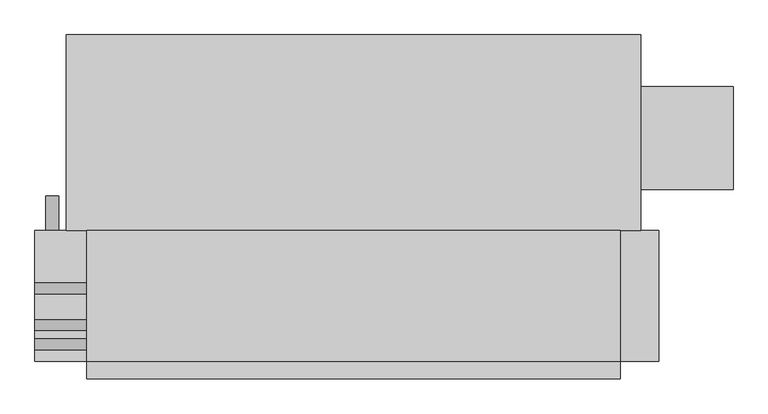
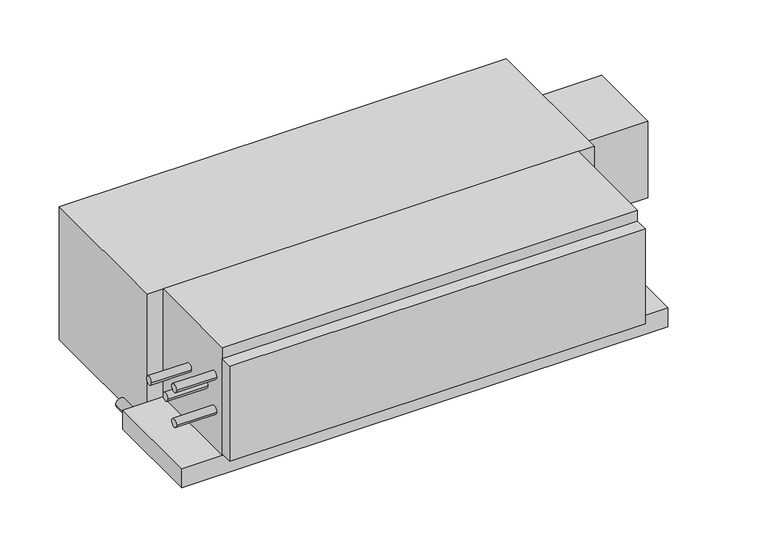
"""IFC4 building model written with IfcOpenShell, lengths in millimetres: proxy geometry, Concealed_Horizontal_Fan_Coil_Unit_With_Plenum_-_42CEA_-_CARRIER_-_4-Pipe_LH_2022 : Size 06 - 277v/60Hz/1Ph - 4/1 Coil."""

import ifcopenshell
import ifcopenshell.guid

model = None  # the IFC model being written
_history = None  # IfcOwnerHistory: only IFC2X3 demands one
_inside = {}  # id of a spatial element -> (the spatial element, [elements in it])
_under = {}  # id of a project, library or spatial element -> (it, [spatial elements below it])
_declared = {}  # id of a project -> (the project, [libraries it declares])
_typed = {}  # id of a type object -> (the type object, [elements of that type])
_made_of = {}  # id of a material, layer set ... -> (it, [elements and type objects made of it])


def new_model(schema):
    """Start an empty IFC model of exactly this schema.

    Asked for "IFC4X3", IfcOpenShell would pick the latest addendum, in which some entities
    have other attributes; the version numbers below select the first issue.
    IFC2X3 requires an IfcOwnerHistory on every rooted entity: one is made here for all.
    """
    global model, _history
    if schema == "IFC4X3":
        model = ifcopenshell.file(schema_version=(4, 3, 0, 0))
    else:
        model = ifcopenshell.file(schema=schema)
    _inside.clear()
    _under.clear()
    _declared.clear()
    _typed.clear()
    _made_of.clear()
    _history = None
    if model.schema == "IFC2X3":
        org = make("IfcOrganization", Name="unknown")
        user = make(
            "IfcPersonAndOrganization",
            ThePerson=make("IfcPerson", FamilyName="unknown"),
            TheOrganization=org,
        )
        app = make(
            "IfcApplication",
            ApplicationDeveloper=org,
            Version="unknown",
            ApplicationFullName="unknown",
            ApplicationIdentifier="unknown",
        )
        _history = make(
            "IfcOwnerHistory",
            OwningUser=user,
            OwningApplication=app,
            ChangeAction="ADDED",
            CreationDate=0,
        )
    return model


def make(cls, **values):
    """One entity of the class cls with the attributes given. An attribute that is None is left unset."""
    return model.create_entity(
        cls, **{name: value for name, value in values.items() if value is not None}
    )


def rooted(cls, **values):
    """An entity with a GlobalId (a new one), such as an element, a storey or a relation."""
    return make(cls, GlobalId=ifcopenshell.guid.new(), OwnerHistory=_history, **values)


def si_unit(unit_type, name, prefix=None):
    """IfcSIUnit, for example si_unit("LENGTHUNIT", "METRE", prefix="MILLI")."""
    return make("IfcSIUnit", UnitType=unit_type, Prefix=prefix, Name=name)


def assignment(units):
    """IfcUnitAssignment: the units of a project."""
    return None if units is None else make("IfcUnitAssignment", Units=units)


def point(xyz):
    """IfcCartesianPoint."""
    return None if xyz is None else make("IfcCartesianPoint", Coordinates=xyz)


def direction(xyz):
    """IfcDirection."""
    return None if xyz is None else make("IfcDirection", DirectionRatios=xyz)


def frame(location, z_axis=None, x_axis=None):
    """IfcAxis2Placement3D, a coordinate frame: its origin and axes. An axis left out is left unset."""
    return make(
        "IfcAxis2Placement3D",
        Location=point(location),
        Axis=direction(z_axis),
        RefDirection=direction(x_axis),
    )


def frame_2d(location, x_axis=None):
    """IfcAxis2Placement2D, a coordinate frame in the plane: its origin and x axis."""
    return make(
        "IfcAxis2Placement2D", Location=point(location), RefDirection=direction(x_axis)
    )


def origin():
    """The frame at (0, 0, 0) with its axes left unset."""
    return frame((0.0, 0.0, 0.0))


def place(relative_to, where):
    """IfcLocalPlacement: puts the frame where relative to a parent placement (None: the world)."""
    return make(
        "IfcLocalPlacement", PlacementRelTo=relative_to, RelativePlacement=where
    )


def context(
    kind, dimensions, precision=None, world=None, true_north=None, identifier=None
):
    """IfcGeometricRepresentationContext, for example the 3D "Model" context."""
    return make(
        "IfcGeometricRepresentationContext",
        ContextIdentifier=identifier,
        ContextType=kind,
        CoordinateSpaceDimension=dimensions,
        Precision=precision,
        WorldCoordinateSystem=world,
        TrueNorth=true_north,
    )


def project(units=None, contexts=None):
    """IfcProject with its units and contexts."""
    return rooted(
        "IfcProject",
        Name="project",
        RepresentationContexts=contexts,
        UnitsInContext=assignment(units),
    )


def spatial(cls, under=None, at=None, **own):
    """A site, building, storey or space (cls), placed at a placement, below another one or the project."""
    s = rooted(cls, ObjectPlacement=at, **own)
    if under is not None:
        _under.setdefault(under.id(), (under, []))[1].append(s)
    return s


def polyline(points):
    """IfcPolyline through the points."""
    return make("IfcPolyline", Points=[point(p) for p in points])


def circle_curve(where, radius):
    """IfcCircle in the frame where."""
    return make("IfcCircle", Position=where, Radius=radius)


def trimmed(basis, trim1, trim2, sense, master):
    """IfcTrimmedCurve: the piece of a basis curve between two trims."""
    return make(
        "IfcTrimmedCurve",
        BasisCurve=basis,
        Trim1=trim1,
        Trim2=trim2,
        SenseAgreement=sense,
        MasterRepresentation=master,
    )


def segment(curve, same_sense, transition):
    """IfcCompositeCurveSegment."""
    return make(
        "IfcCompositeCurveSegment",
        Transition=transition,
        SameSense=same_sense,
        ParentCurve=curve,
    )


def composite_curve(segments, self_intersect=None):
    """IfcCompositeCurve: segments joined end to end."""
    return make("IfcCompositeCurve", Segments=segments, SelfIntersect=self_intersect)


def outline(outer, holes=None, kind="AREA"):
    """IfcArbitraryClosedProfileDef: a profile drawn as a closed curve; with holes, ...WithVoids."""
    if holes is None:
        return make("IfcArbitraryClosedProfileDef", ProfileType=kind, OuterCurve=outer)
    return make(
        "IfcArbitraryProfileDefWithVoids",
        ProfileType=kind,
        OuterCurve=outer,
        InnerCurves=holes,
    )


def extrude(swept, where, along, depth):
    """IfcExtrudedAreaSolid: the profile swept, set in the frame where, extruded along a direction by depth."""
    return make(
        "IfcExtrudedAreaSolid",
        SweptArea=swept,
        Position=where,
        ExtrudedDirection=direction(along),
        Depth=depth,
    )


def shape(context_of_items, identifier, shape_type, items):
    """IfcShapeRepresentation: the items that make up one representation, for example the "Body"."""
    return make(
        "IfcShapeRepresentation",
        ContextOfItems=context_of_items,
        RepresentationIdentifier=identifier,
        RepresentationType=shape_type,
        Items=items,
    )


def source(mapping_origin, context_of_items, identifier, shape_type, items):
    """IfcRepresentationMap: a shape defined once, which mapped items show again and again."""
    return make(
        "IfcRepresentationMap",
        MappingOrigin=mapping_origin,
        MappedRepresentation=shape(context_of_items, identifier, shape_type, items),
    )


def transform(
    local_origin,
    x_axis=None,
    y_axis=None,
    z_axis=None,
    scale=None,
    scale2=None,
    scale3=None,
    uniform=True,
):
    """IfcCartesianTransformationOperator3D, or its non-uniform kind. x_axis, y_axis, z_axis: its Axis1, 2, 3."""
    if uniform:
        return make(
            "IfcCartesianTransformationOperator3D",
            Axis1=direction(x_axis),
            Axis2=direction(y_axis),
            LocalOrigin=point(local_origin),
            Scale=scale,
            Axis3=direction(z_axis),
        )
    return make(
        "IfcCartesianTransformationOperator3DnonUniform",
        Axis1=direction(x_axis),
        Axis2=direction(y_axis),
        LocalOrigin=point(local_origin),
        Scale=scale,
        Axis3=direction(z_axis),
        Scale2=scale2,
        Scale3=scale3,
    )


def mapped(mapping_source, mapping_target):
    """IfcMappedItem: shows the shape of a source again, moved by a transform."""
    return make(
        "IfcMappedItem", MappingSource=mapping_source, MappingTarget=mapping_target
    )


def made_of(thing, what):
    """Note that an element or type object is made of a material, layer set ...; save() writes the relation."""
    if what is not None:
        _made_of.setdefault(what.id(), (what, []))[1].append(thing)
    return thing


def element(
    cls,
    number,
    at=None,
    inside=None,
    cuts=None,
    type_object=None,
    material=None,
    context=None,
    identifier="Body",
    shape_type=None,
    held_by="IfcProductDefinitionShape",
    body=None,
    shapes=None,
    **own,
):
    """One element of the class cls, such as IfcWall. Its Tag is "e" and its number.

    at: its placement. inside: the storey or other place that contains it. cuts: it is an
    opening in that element (IfcRelVoidsElement). A single representation is given by context,
    identifier, shape_type and body (its items); several are given by shapes. held_by: the class
    of the entity that holds the representations. save() writes the other relations.
    """
    e = rooted(cls, Tag="e%d" % number, ObjectPlacement=at, **own)
    if body is not None:
        shapes = [shape(context, identifier, shape_type, body)]
    if shapes is not None:
        e.Representation = make(held_by, Representations=shapes)
    if inside is not None:
        _inside.setdefault(inside.id(), (inside, []))[1].append(e)
    if cuts is not None:
        rooted(
            "IfcRelVoidsElement", RelatingBuildingElement=cuts, RelatedOpeningElement=e
        )
    if type_object is not None:
        _typed.setdefault(type_object.id(), (type_object, []))[1].append(e)
    return made_of(e, material)


def aggregate(whole, parts):
    """IfcRelAggregates: a whole, such as a stair, and the parts it consists of."""
    return rooted("IfcRelAggregates", RelatingObject=whole, RelatedObjects=parts)


def save(model, path):
    """Write the relations noted so far, then the file.

    IfcRelAggregates (storeys below a building ...), IfcRelContainedInSpatialStructure (elements
    in a storey), IfcRelDefinesByType, IfcRelAssociatesMaterial and IfcRelDeclares: one each for
    every whole, place, type object, material and project.
    """
    for whole, parts in _under.values():
        aggregate(whole, parts)
    for where, things in _inside.values():
        rooted(
            "IfcRelContainedInSpatialStructure",
            RelatedElements=things,
            RelatingStructure=where,
        )
    for kind, things in _typed.values():
        rooted("IfcRelDefinesByType", RelatedObjects=things, RelatingType=kind)
    for what, things in _made_of.values():
        rooted("IfcRelAssociatesMaterial", RelatedObjects=things, RelatingMaterial=what)
    for by, libraries in _declared.values():
        rooted("IfcRelDeclares", RelatingContext=by, RelatedDefinitions=libraries)
    model.write(path)


def mechanical_equipment_13e381cf(model_context):
    return source(origin(), model_context, "Body", "SweptSolid", [
        extrude(outline(composite_curve([segment(trimmed(circle_curve(frame_2d((-241.3, -292.1)), 9.525), [point((-241.3, -301.625))], [point((-241.3, -282.575))], False, "CARTESIAN"), True, "CONTINUOUS"), segment(trimmed(circle_curve(frame_2d((-241.3, -292.1)), 9.525), [point((-241.3, -282.575))], [point((-241.3, -301.625))], False, "CARTESIAN"), True, "CONTINUOUS")], self_intersect=False)), frame((0.0, -141.2875, 0.0), z_axis=(0.0, 1.0, 0.0), x_axis=(0.0, 0.0, 1.0)), (0.0, 0.0, 1.0), 50.8),
        extrude(outline(composite_curve([segment(trimmed(circle_curve(frame_2d((-309.5625, -69.85)), 7.9375), [point((-301.625, -69.85))], [point((-317.5, -69.85))], False, "CARTESIAN"), True, "CONTINUOUS"), segment(trimmed(circle_curve(frame_2d((-309.5625, -69.85)), 7.9375), [point((-317.5, -69.85))], [point((-301.625, -69.85))], False, "CARTESIAN"), True, "CONTINUOUS")], self_intersect=False)), frame((-317.5, 0.0, 0.0), z_axis=(1.0, 0.0, 0.0), x_axis=(0.0, 1.0, 0.0)), (0.0, 0.0, 1.0), 76.2),
        extrude(outline(composite_curve([segment(trimmed(circle_curve(frame_2d((-309.5625, -139.7)), 7.9375), [point((-301.625, -139.7))], [point((-317.5, -139.7))], False, "CARTESIAN"), True, "CONTINUOUS"), segment(trimmed(circle_curve(frame_2d((-309.5625, -139.7)), 7.9375), [point((-317.5, -139.7))], [point((-301.625, -139.7))], False, "CARTESIAN"), True, "CONTINUOUS")], self_intersect=False)), frame((-317.5, 0.0, 0.0), z_axis=(1.0, 0.0, 0.0), x_axis=(0.0, 1.0, 0.0)), (0.0, 0.0, 1.0), 76.2),
        extrude(outline(composite_curve([segment(trimmed(circle_curve(frame_2d((-227.0125, -104.775)), 7.9375), [point((-219.075, -104.775))], [point((-234.95, -104.775))], False, "CARTESIAN"), True, "CONTINUOUS"), segment(trimmed(circle_curve(frame_2d((-227.0125, -104.775)), 7.9375), [point((-234.95, -104.775))], [point((-219.075, -104.775))], False, "CARTESIAN"), True, "CONTINUOUS")], self_intersect=False)), frame((-317.5, 0.0, 0.0), z_axis=(1.0, 0.0, 0.0), x_axis=(0.0, 1.0, 0.0)), (0.0, 0.0, 1.0), 76.2),
        extrude(outline(composite_curve([segment(trimmed(circle_curve(frame_2d((-280.9875, -104.775)), 7.9375), [point((-273.05, -104.775))], [point((-288.925, -104.775))], False, "CARTESIAN"), True, "CONTINUOUS"), segment(trimmed(circle_curve(frame_2d((-280.9875, -104.775)), 7.9375), [point((-288.925, -104.775))], [point((-273.05, -104.775))], False, "CARTESIAN"), True, "CONTINUOUS")], self_intersect=False)), frame((-317.5, 0.0, 0.0), z_axis=(1.0, 0.0, 0.0), x_axis=(0.0, 1.0, 0.0)), (0.0, 0.0, 1.0), 76.2),
        extrude(outline(polyline([(546.1, -334.9625), (546.1, -360.3625), (-241.3, -360.3625), (-241.3, -334.9625), (546.1, -334.9625)])), frame((0.0, 0.0, -212.725), z_axis=(0.0, 0.0, 1.0), x_axis=(1.0, 0.0, 0.0)), (0.0, 0.0, 1.0), 190.5),
        extrude(outline(polyline([(546.1, -334.9625), (-241.3, -334.9625), (-241.3, -141.2875), (546.1, -141.2875), (546.1, -334.9625)])), frame((0.0, 0.0, -215.9), z_axis=(0.0, 0.0, 1.0), x_axis=(1.0, 0.0, 0.0)), (0.0, 0.0, 1.0), 215.9),
        extrude(outline(polyline([(603.25, -141.2875), (603.25, -334.9625), (-317.5, -334.9625), (-317.5, -141.2875), (603.25, -141.2875)])), frame((0.0, 0.0, -254.0), z_axis=(0.0, 0.0, 1.0), x_axis=(1.0, 0.0, 0.0)), (0.0, 0.0, 1.0), 38.1),
        extrude(outline(polyline([(712.7875, 71.4375), (712.7875, -80.9625), (576.2625, -80.9625), (576.2625, 71.4375), (712.7875, 71.4375)])), frame((0.0, 0.0, -187.325), z_axis=(0.0, 0.0, 1.0), x_axis=(1.0, 0.0, 0.0)), (0.0, 0.0, 1.0), 152.4),
        extrude(outline(polyline([(-271.4625, 147.6375), (576.2625, 147.6375), (576.2625, -141.2875), (-271.4625, -141.2875), (-271.4625, 147.6375)])), frame((0.0, 0.0, -266.7), z_axis=(0.0, 0.0, 1.0), x_axis=(1.0, 0.0, 0.0)), (0.0, 0.0, 1.0), 266.7),
    ])


if __name__ == "__main__":
    model = new_model("IFC4")
    model_context = context("Model", 3, world=origin())
    ifc_project = project(units=[si_unit("LENGTHUNIT", "METRE", prefix="MILLI")], contexts=[model_context])
    site = spatial("IfcSite", under=ifc_project)
    building = spatial("IfcBuilding", under=site)
    placement = place(None, origin())
    mechanical_equipment_shape = mechanical_equipment_13e381cf(model_context)
    element("IfcBuildingElementProxy", 1, Name="Concealed_Horizontal_Fan_Coil_Unit_With_Plenum_-_42CEA_-_CARRIER_-_4-Pipe_LH_2022 : Size 06 - 277v/60Hz/1Ph - 4/1 Coil", ObjectType="Concealed_Horizontal_Fan_Coil_Unit_With_Plenum_-_42CEA_-_CARRIER_-_4-Pipe_LH_2022 : Size 06 - 277v/60Hz/1Ph - 4/1 Coil", at=placement, inside=building, context=model_context, shape_type="MappedRepresentation", body=[
        mapped(mechanical_equipment_shape, transform((0.0, 0.0, 0.0), x_axis=(1.0, 0.0, 0.0), y_axis=(0.0, 1.0, 0.0), z_axis=(0.0, 0.0, 1.0))),
    ])
    save(model, "model.ifc")
